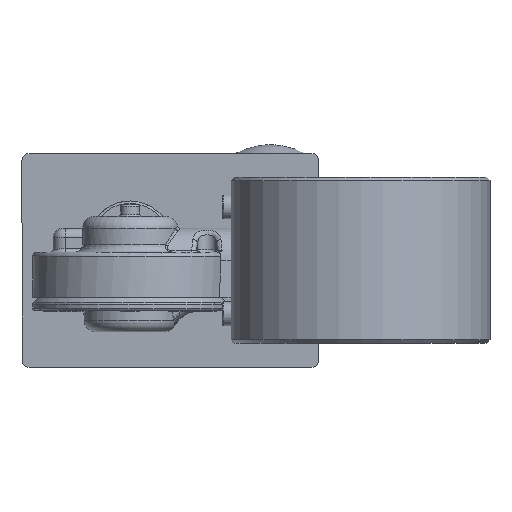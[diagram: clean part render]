
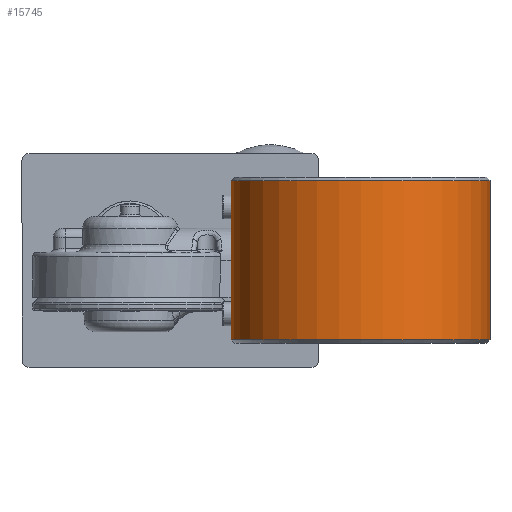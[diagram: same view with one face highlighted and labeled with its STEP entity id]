
A CAD part, left-side view. The second image highlights one B-rep face of the part: STEP entity #15745.
In plain terms, the highlighted cylindrical face has radius 54.5 mm (diameter 109 mm), a partial arc.
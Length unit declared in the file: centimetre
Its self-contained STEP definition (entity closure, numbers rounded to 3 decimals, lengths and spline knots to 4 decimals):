
#2906=VECTOR('',#20067,1.);
#2907=VECTOR('',#20068,1.);
#3907=LINE('',#34127,#2906);
#3908=LINE('',#34141,#2907);
#6146=VERTEX_POINT('',#34112);
#6148=VERTEX_POINT('',#34120);
#6151=VERTEX_POINT('',#34128);
#6153=VERTEX_POINT('',#34140);
#6700=CIRCLE('',#16969,5.45);
#6704=CIRCLE('',#16975,5.45);
#8648=EDGE_CURVE('',#6148,#6146,#6700,.T.);
#8651=EDGE_CURVE('',#6146,#6151,#3907,.T.);
#8654=EDGE_CURVE('',#6148,#6153,#3908,.T.);
#8656=EDGE_CURVE('',#6151,#6153,#6704,.T.);
#12560=ORIENTED_EDGE('',*,*,#8648,.F.);
#12561=ORIENTED_EDGE('',*,*,#8654,.T.);
#12562=ORIENTED_EDGE('',*,*,#8656,.F.);
#12563=ORIENTED_EDGE('',*,*,#8651,.F.);
#13725=EDGE_LOOP('',(#12560,#12561,#12562,#12563));
#14869=FACE_BOUND('',#13725,.T.);
#15745=ADVANCED_FACE('',(#14869),#34449,.T.);
#16969=AXIS2_PLACEMENT_3D('',#34121,#20060,#20061);
#16975=AXIS2_PLACEMENT_3D('',#34144,#20073,#20074);
#16985=AXIS2_PLACEMENT_3D('',#34158,#20091,#20092);
#20060=DIRECTION('',(0.,0.,1.));
#20061=DIRECTION('',(-5.45,0.,0.));
#20067=DIRECTION('',(0.,0.,-1.));
#20068=DIRECTION('',(0.,0.,-1.));
#20073=DIRECTION('',(0.,0.,-1.));
#20074=DIRECTION('',(-5.45,0.,0.));
#20091=DIRECTION('',(0.,0.,-1.));
#20092=DIRECTION('',(-5.45,0.,0.));
#34112=CARTESIAN_POINT('',(-5.519,-8.0392,5.5968));
#34120=CARTESIAN_POINT('',(-5.519,-5.4995,5.5968));
#34121=CARTESIAN_POINT('',(-10.819,-6.7693,5.5968));
#34127=CARTESIAN_POINT('',(-5.519,-8.0392,5.7468));
#34128=CARTESIAN_POINT('',(-5.519,-8.0392,-1.1032));
#34140=CARTESIAN_POINT('',(-5.519,-5.4995,-1.1032));
#34141=CARTESIAN_POINT('',(-5.519,-5.4995,5.7468));
#34144=CARTESIAN_POINT('',(-10.819,-6.7693,-1.1032));
#34158=CARTESIAN_POINT('',(-10.819,-6.7693,5.7468));
#34449=CYLINDRICAL_SURFACE('',#16985,5.45);
